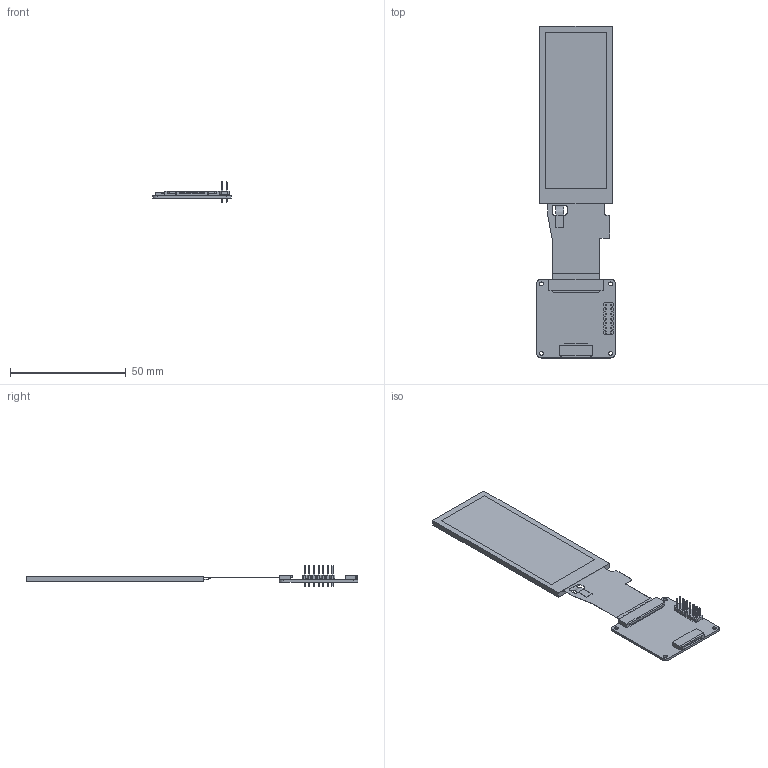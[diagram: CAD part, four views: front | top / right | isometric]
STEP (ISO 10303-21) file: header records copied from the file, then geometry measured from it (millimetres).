
FILE_DESCRIPTION((''),'2;1');
FILE_NAME('TS028FWV02NP-I1440A-V00-241207','2024-12-07T17:49:28',('Shaozi'),(''),'CREO PARAMETRIC BY PTC INC, 2024063','CREO PARAMETRIC BY PTC INC, 2024063','');
FILE_SCHEMA(('AUTOMOTIVE_DESIGN { 1 0 10303 214 1 1 1 1 }'));
Length unit declared in the file: millimetre
Products named in the file (1): TS028FWV02NP-I1440A-V00-241207
Bounding box: 34 x 143.5 x 8.8 mm (x, y, z)
Surface area: 10222.5 mm2 (no closed solid volume)
Topology: 0 solids, 21 shells, 327 faces, 973 edges, 678 vertices
Faces by surface type: plane 305, cylinder 20, bspline 2
Entity records: 12775 total; most frequent: CARTESIAN_POINT 2146, ORIENTED_EDGE 1708, DIRECTION 1667, EDGE_CURVE 973, VECTOR 921, LINE 921, VERTEX_POINT 678, AXIS2_PLACEMENT_3D 373
